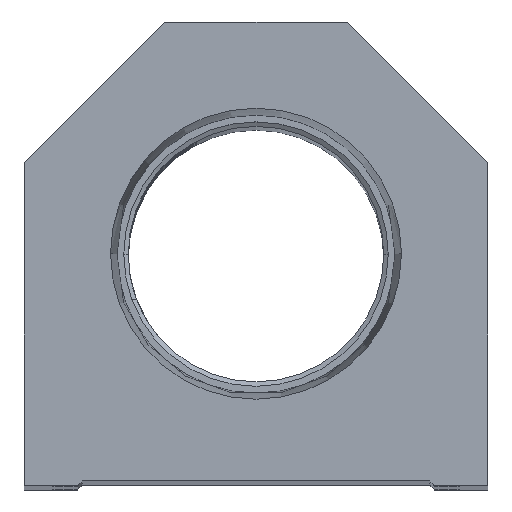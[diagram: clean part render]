
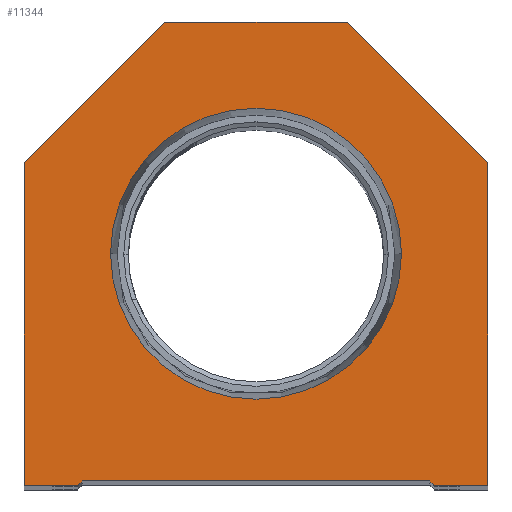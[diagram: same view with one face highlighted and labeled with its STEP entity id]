
A CAD part, top view. The second image highlights one B-rep face of the part: STEP entity #11344.
In plain terms, the highlighted planar face has unit normal (0, 0, 1).
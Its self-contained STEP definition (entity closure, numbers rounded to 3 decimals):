
#15 = CARTESIAN_POINT ( 'NONE',  ( 0., 25.4, 0. ) ) ;
#268 = EDGE_CURVE ( 'NONE', #4166, #485, #6905, .T. ) ;
#485 = VERTEX_POINT ( 'NONE', #7066 ) ;
#489 = DIRECTION ( 'NONE',  ( -1., 0., 0. ) ) ;
#641 = EDGE_CURVE ( 'NONE', #18630, #16357, #13045, .T. ) ;
#1074 = VERTEX_POINT ( 'NONE', #4760 ) ;
#1076 = LINE ( 'NONE', #20332, #13103 ) ;
#1373 = LINE ( 'NONE', #11056, #9346 ) ;
#1396 = DIRECTION ( 'NONE',  ( 0., -1., 0. ) ) ;
#1561 = ORIENTED_EDGE ( 'NONE', *, *, #14904, .T. ) ;
#1836 = VERTEX_POINT ( 'NONE', #16342 ) ;
#1867 = ORIENTED_EDGE ( 'NONE', *, *, #641, .T. ) ;
#1997 = CARTESIAN_POINT ( 'NONE',  ( -10., 50.8, 0. ) ) ;
#2078 = EDGE_CURVE ( 'NONE', #1074, #2079, #15796, .T. ) ;
#2079 = VERTEX_POINT ( 'NONE', #4442 ) ;
#2428 = CARTESIAN_POINT ( 'NONE',  ( -25.4, 35.4, 0. ) ) ;
#2614 = EDGE_LOOP ( 'NONE', ( #17501, #18620, #20068, #15983, #1867, #5778, #10999, #3178, #1561, #12010 ) ) ;
#2782 = FACE_OUTER_BOUND ( 'NONE', #2614, .T. ) ;
#3178 = ORIENTED_EDGE ( 'NONE', *, *, #7890, .T. ) ;
#3475 = CARTESIAN_POINT ( 'NONE',  ( 19.05, 0., 0. ) ) ;
#3904 = DIRECTION ( 'NONE',  ( 0., 0., 1. ) ) ;
#4166 = VERTEX_POINT ( 'NONE', #12592 ) ;
#4442 = CARTESIAN_POINT ( 'NONE',  ( -25.4, 0., 0. ) ) ;
#4560 = CARTESIAN_POINT ( 'NONE',  ( 0., 0., 0. ) ) ;
#4623 = ORIENTED_EDGE ( 'NONE', *, *, #12386, .F. ) ;
#4685 = EDGE_CURVE ( 'NONE', #1836, #11940, #1373, .T. ) ;
#4760 = CARTESIAN_POINT ( 'NONE',  ( -25.4, 35.4, 0. ) ) ;
#4919 = LINE ( 'NONE', #14248, #8285 ) ;
#5068 = CARTESIAN_POINT ( 'NONE',  ( -19.05, 0.5, 0. ) ) ;
#5076 = DIRECTION ( 'NONE',  ( 1., 0., 0. ) ) ;
#5778 = ORIENTED_EDGE ( 'NONE', *, *, #9050, .T. ) ;
#5927 = DIRECTION ( 'NONE',  ( 1., 0., 0. ) ) ;
#6378 = DIRECTION ( 'NONE',  ( 0., 1., 0. ) ) ;
#6538 = EDGE_CURVE ( 'NONE', #11940, #12449, #1076, .T. ) ;
#6905 = LINE ( 'NONE', #19743, #20121 ) ;
#6909 = AXIS2_PLACEMENT_3D ( 'NONE', #4560, #16017, #12783 ) ;
#7066 = CARTESIAN_POINT ( 'NONE',  ( 10., 50.8, 0. ) ) ;
#7088 = CARTESIAN_POINT ( 'NONE',  ( 0., 25.4, 0. ) ) ;
#7890 = EDGE_CURVE ( 'NONE', #485, #20499, #11954, .T. ) ;
#8285 = VECTOR ( 'NONE', #11123, 1000. ) ;
#8580 = VECTOR ( 'NONE', #5076, 1000. ) ;
#8606 = AXIS2_PLACEMENT_3D ( 'NONE', #7088, #3904, #15477 ) ;
#8911 = AXIS2_PLACEMENT_3D ( 'NONE', #15, #9705, #10409 ) ;
#8928 = VECTOR ( 'NONE', #6378, 1000. ) ;
#9031 = EDGE_CURVE ( 'NONE', #12449, #18630, #4919, .T. ) ;
#9050 = EDGE_CURVE ( 'NONE', #16357, #4166, #9643, .T. ) ;
#9320 = CARTESIAN_POINT ( 'NONE',  ( 25.4, 0., 0. ) ) ;
#9346 = VECTOR ( 'NONE', #14292, 1000. ) ;
#9468 = VERTEX_POINT ( 'NONE', #10208 ) ;
#9643 = LINE ( 'NONE', #9320, #8928 ) ;
#9702 = VERTEX_POINT ( 'NONE', #20158 ) ;
#9705 = DIRECTION ( 'NONE',  ( 0., 0., 1. ) ) ;
#10208 = CARTESIAN_POINT ( 'NONE',  ( -15.947, 25.4, 0. ) ) ;
#10409 = DIRECTION ( 'NONE',  ( 1., 0., 0. ) ) ;
#10754 = CARTESIAN_POINT ( 'NONE',  ( -25.4, 0., 0. ) ) ;
#10999 = ORIENTED_EDGE ( 'NONE', *, *, #268, .T. ) ;
#11056 = CARTESIAN_POINT ( 'NONE',  ( -9.775, 9.775, 0. ) ) ;
#11098 = PLANE ( 'NONE',  #6909 ) ;
#11123 = DIRECTION ( 'NONE',  ( 0.707, -0.707, 0. ) ) ;
#11278 = CIRCLE ( 'NONE', #8911, 15.947 ) ;
#11344 = ADVANCED_FACE ( 'NONE', ( #17633, #2782 ), #11098, .T. ) ;
#11669 = EDGE_CURVE ( 'NONE', #9702, #9468, #11278, .T. ) ;
#11905 = LINE ( 'NONE', #2428, #12348 ) ;
#11940 = VERTEX_POINT ( 'NONE', #5068 ) ;
#11954 = LINE ( 'NONE', #16597, #13171 ) ;
#12010 = ORIENTED_EDGE ( 'NONE', *, *, #2078, .T. ) ;
#12348 = VECTOR ( 'NONE', #15065, 1000. ) ;
#12386 = EDGE_CURVE ( 'NONE', #9468, #9702, #17701, .T. ) ;
#12449 = VERTEX_POINT ( 'NONE', #15368 ) ;
#12592 = CARTESIAN_POINT ( 'NONE',  ( 25.4, 35.4, 0. ) ) ;
#12783 = DIRECTION ( 'NONE',  ( 1., 0., 0. ) ) ;
#13045 = LINE ( 'NONE', #3475, #8580 ) ;
#13103 = VECTOR ( 'NONE', #5927, 1000. ) ;
#13171 = VECTOR ( 'NONE', #489, 1000. ) ;
#13382 = EDGE_LOOP ( 'NONE', ( #18131, #4623 ) ) ;
#14012 = DIRECTION ( 'NONE',  ( 1., 0., 0. ) ) ;
#14248 = CARTESIAN_POINT ( 'NONE',  ( 9.775, 9.775, 0. ) ) ;
#14292 = DIRECTION ( 'NONE',  ( 0.707, 0.707, 0. ) ) ;
#14904 = EDGE_CURVE ( 'NONE', #20499, #1074, #11905, .T. ) ;
#14945 = CARTESIAN_POINT ( 'NONE',  ( 25.4, 0., 0. ) ) ;
#14964 = VECTOR ( 'NONE', #1396, 1000. ) ;
#15065 = DIRECTION ( 'NONE',  ( -0.707, -0.707, 0. ) ) ;
#15368 = CARTESIAN_POINT ( 'NONE',  ( 19.05, 0.5, 0. ) ) ;
#15477 = DIRECTION ( 'NONE',  ( 1., 0., 0. ) ) ;
#15796 = LINE ( 'NONE', #10754, #14964 ) ;
#15983 = ORIENTED_EDGE ( 'NONE', *, *, #9031, .T. ) ;
#16017 = DIRECTION ( 'NONE',  ( 0., 0., 1. ) ) ;
#16342 = CARTESIAN_POINT ( 'NONE',  ( -19.55, 0., 0. ) ) ;
#16357 = VERTEX_POINT ( 'NONE', #14945 ) ;
#16597 = CARTESIAN_POINT ( 'NONE',  ( 10., 50.8, 0. ) ) ;
#17470 = VECTOR ( 'NONE', #14012, 1000. ) ;
#17501 = ORIENTED_EDGE ( 'NONE', *, *, #18278, .T. ) ;
#17622 = LINE ( 'NONE', #19080, #17470 ) ;
#17633 = FACE_BOUND ( 'NONE', #13382, .T. ) ;
#17701 = CIRCLE ( 'NONE', #8606, 15.947 ) ;
#18131 = ORIENTED_EDGE ( 'NONE', *, *, #11669, .F. ) ;
#18278 = EDGE_CURVE ( 'NONE', #2079, #1836, #17622, .T. ) ;
#18620 = ORIENTED_EDGE ( 'NONE', *, *, #4685, .T. ) ;
#18630 = VERTEX_POINT ( 'NONE', #19672 ) ;
#19080 = CARTESIAN_POINT ( 'NONE',  ( -19.05, 0., 0. ) ) ;
#19640 = DIRECTION ( 'NONE',  ( -0.707, 0.707, 0. ) ) ;
#19672 = CARTESIAN_POINT ( 'NONE',  ( 19.55, 0., 0. ) ) ;
#19743 = CARTESIAN_POINT ( 'NONE',  ( 25.4, 35.4, 0. ) ) ;
#20068 = ORIENTED_EDGE ( 'NONE', *, *, #6538, .T. ) ;
#20121 = VECTOR ( 'NONE', #19640, 1000. ) ;
#20158 = CARTESIAN_POINT ( 'NONE',  ( 15.947, 25.4, 0. ) ) ;
#20332 = CARTESIAN_POINT ( 'NONE',  ( -19.05, 0.5, 0. ) ) ;
#20499 = VERTEX_POINT ( 'NONE', #1997 ) ;
